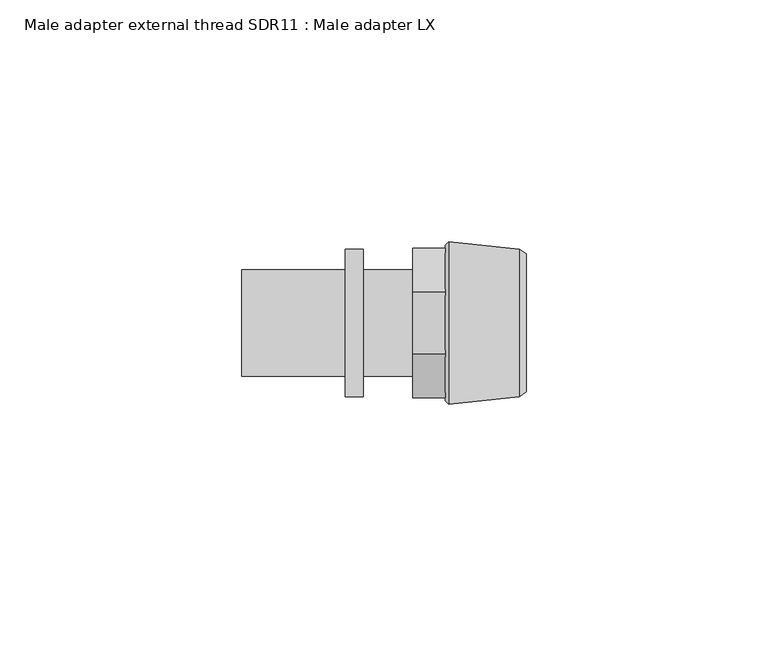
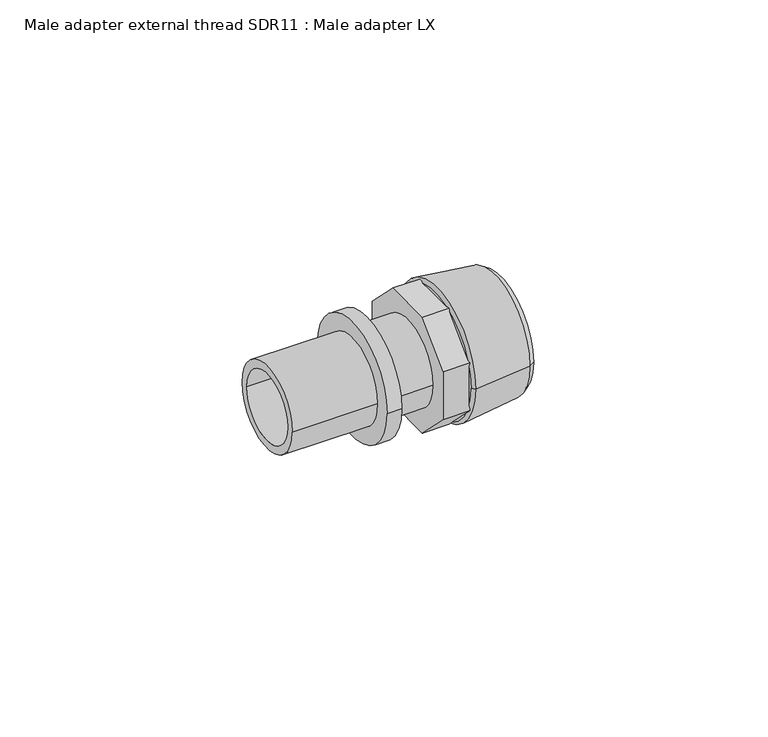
"""IFC4 building model written with IfcOpenShell, lengths in millimetres: pipe fitting geometry, Male adapter external thread SDR11 : Male adapter LX."""

from ifc_helpers import new_model, si_unit, frame, origin, place, context, project, spatial, polyline, circle_curve, outline, extrude, source, transform, mapped, element, save
from ifc_brep_helpers import plane_surface, cylinder_surface, revolved_surface, advanced_brep


def male_adapter_external_thread_sdr11_male_adapter_lx_96740124(model_context):
    return source(origin(), model_context, "Body", "SolidModel", [
        advanced_brep(
        [(-14.0, 11.0, 0.0), (-14.0, -11.0, 0.0), (-35.5, -11.0, 0.0), (-35.5, 11.0, 0.0), (-10.3, 15.25, 0.0), (-10.3, -15.25, 0.0), (-14.0, -15.25, 0.0), (-14.0, 15.25, 0.0), (0.0, 11.0, 0.0), (0.0, -11.0, 0.0), (-10.3, -11.0, 0.0), (-10.3, 11.0, 0.0), (-35.5, 8.9, 0.0), (-35.5, -8.9, 0.0), (0.0, -8.9, 0.0), (0.0, 8.9, 0.0)],
        [
            (0, 1, circle_curve(frame((-14.0, 0.0, 0.0), z_axis=(-1.0, 0.0, 0.0), x_axis=(0.0, -1.0, 0.0)), 11.0)),
            (1, 2),
            (2, 3, circle_curve(frame((-35.5, 0.0, 0.0), z_axis=(1.0, 0.0, 0.0), x_axis=(0.0, -1.0, 0.0)), 11.0)),
            (3, 0),
            (4, 5, circle_curve(frame((-10.3, 0.0, 0.0), z_axis=(-1.0, 0.0, 0.0), x_axis=(0.0, -1.0, 0.0)), 15.25)),
            (5, 6),
            (6, 7, circle_curve(frame((-14.0, 0.0, 0.0), z_axis=(1.0, 0.0, 0.0), x_axis=(0.0, -1.0, 0.0)), 15.25)),
            (7, 4),
            (8, 9, circle_curve(frame((0.0, 0.0, 0.0), z_axis=(-1.0, 0.0, 0.0), x_axis=(0.0, -1.0, 0.0)), 11.0)),
            (9, 10),
            (10, 11, circle_curve(frame((-10.3, 0.0, 0.0), z_axis=(1.0, 0.0, 0.0), x_axis=(0.0, -1.0, 0.0)), 11.0)),
            (11, 8),
            (12, 13, circle_curve(frame((-35.5, 0.0, 0.0), z_axis=(-1.0, 0.0, 0.0), x_axis=(0.0, -1.0, 0.0)), 8.9)),
            (13, 14),
            (14, 15, circle_curve(frame((0.0, 0.0, 0.0), z_axis=(1.0, 0.0, 0.0), x_axis=(0.0, -1.0, 0.0)), 8.9)),
            (15, 12),
            (2, 3, circle_curve(frame((-35.5, 0.0, 0.0), z_axis=(-1.0, 0.0, 0.0), x_axis=(0.0, 1.0, 0.0)), 11.0)),
            (12, 13, circle_curve(frame((-35.5, 0.0, 0.0), z_axis=(1.0, 0.0, 0.0), x_axis=(0.0, 1.0, 0.0)), 8.9)),
            (1, 0, circle_curve(frame((-14.0, 0.0, 0.0), z_axis=(-1.0, 0.0, 0.0), x_axis=(0.0, 1.0, 0.0)), 11.0)),
            (6, 7, circle_curve(frame((-14.0, 0.0, 0.0), z_axis=(-1.0, 0.0, 0.0), x_axis=(0.0, 1.0, 0.0)), 15.25)),
            (5, 4, circle_curve(frame((-10.3, 0.0, 0.0), z_axis=(-1.0, 0.0, 0.0), x_axis=(0.0, 1.0, 0.0)), 15.25)),
            (10, 11, circle_curve(frame((-10.3, 0.0, 0.0), z_axis=(-1.0, 0.0, 0.0), x_axis=(0.0, 1.0, 0.0)), 11.0)),
            (9, 8, circle_curve(frame((0.0, 0.0, 0.0), z_axis=(-1.0, 0.0, 0.0), x_axis=(0.0, 1.0, 0.0)), 11.0)),
            (14, 15, circle_curve(frame((0.0, 0.0, 0.0), z_axis=(-1.0, 0.0, 0.0), x_axis=(0.0, 1.0, 0.0)), 8.9)),
        ],
        [
            cylinder_surface(frame((0.0, 0.0, 0.0), z_axis=(1.0, 0.0, 0.0), x_axis=(0.0, -1.0, 0.0)), 11.0),
            cylinder_surface(frame((0.0, 0.0, 0.0), z_axis=(1.0, 0.0, 0.0), x_axis=(0.0, -1.0, 0.0)), 15.25),
            revolved_surface(polyline([(0.0, -8.9, 0.0), (-35.5, -8.9, 0.0)]), (0.0, 0.0, 0.0), (1.0, 0.0, 0.0)),
            plane_surface(frame((-35.5, 0.0, 0.0), z_axis=(-1.0, 0.0, 0.0), x_axis=(0.0, 1.0, 0.0))),
            cylinder_surface(frame((0.0, 0.0, 0.0), z_axis=(1.0, 0.0, 0.0), x_axis=(0.0, 1.0, 0.0)), 11.0),
            plane_surface(frame((-14.0, 0.0, 0.0), z_axis=(-1.0, 0.0, 0.0), x_axis=(0.0, 1.0, 0.0))),
            cylinder_surface(frame((0.0, 0.0, 0.0), z_axis=(1.0, 0.0, 0.0), x_axis=(0.0, 1.0, 0.0)), 15.25),
            plane_surface(frame((-10.3, 0.0, 0.0), z_axis=(1.0, 0.0, 0.0), x_axis=(0.0, 1.0, 0.0))),
            plane_surface(frame((0.0, 0.0, 0.0), z_axis=(1.0, 0.0, 0.0), x_axis=(0.0, 1.0, 0.0))),
            revolved_surface(polyline([(0.0, 8.9, 0.0), (-35.5, 8.9, 0.0)]), (0.0, 0.0, 0.0), (1.0, 0.0, 0.0)),
        ],
        [
            (0, [[1, 2, 3, 4]]),
            (1, [[5, 6, 7, 8]]),
            (0, [[9, 10, 11, 12]]),
            (2, [[13, 14, 15, 16]]),
            (3, [[17, -3], [18, -13]]),
            (4, [[19, -4, -17, -2]]),
            (5, [[20, -7], [-19, -1]]),
            (6, [[21, -8, -20, -6]]),
            (7, [[-21, -5], [22, -11]]),
            (4, [[23, -12, -22, -10]]),
            (8, [[-23, -9], [24, -15]]),
            (9, [[-18, -16, -24, -14]]),
        ],
    ),
        advanced_brep(
        [(7.8032803, 12.0, 0.0), (7.8032803, -12.0, 0.0), (23.5, -12.0, 0.0), (23.5, 12.0, 0.0), (6.7, 10.8967197, 0.0), (6.7, -10.8967197, 0.0), (7.4406902, 16.85, 0.0), (7.4406902, -16.85, 0.0), (6.7, -16.1, 0.0), (6.7, 16.1, 0.0), (22.0000007, 15.275, 0.0), (22.0000007, -15.275, 0.0), (23.5, 14.3, 0.0), (23.5, -14.3, 0.0)],
        [
            (0, 1, circle_curve(frame((7.8032803, 0.0, 0.0), z_axis=(-1.0, 0.0, 0.0), x_axis=(0.0, -1.0, 0.0)), 12.0)),
            (1, 2),
            (2, 3, circle_curve(frame((23.5, 0.0, 0.0), z_axis=(1.0, 0.0, 0.0), x_axis=(0.0, -1.0, 0.0)), 12.0)),
            (3, 0),
            (4, 5, circle_curve(frame((6.7, 0.0, 0.0), z_axis=(-1.0, 0.0, 0.0), x_axis=(0.0, -1.0, 0.0)), 10.8967197)),
            (5, 1),
            (0, 4),
            (6, 7, circle_curve(frame((7.4406902, 0.0, 0.0), z_axis=(-1.0, 0.0, 0.0), x_axis=(0.0, -1.0, 0.0)), 16.85)),
            (7, 8),
            (8, 9, circle_curve(frame((6.7, 0.0, 0.0), z_axis=(1.0, 0.0, 0.0), x_axis=(0.0, -1.0, 0.0)), 16.1)),
            (9, 6),
            (10, 11, circle_curve(frame((22.0000007, 0.0, 0.0), z_axis=(-1.0, 0.0, 0.0), x_axis=(0.0, -1.0, 0.0)), 15.275)),
            (11, 7),
            (6, 10),
            (12, 13, circle_curve(frame((23.5, 0.0, 0.0), z_axis=(-1.0, 0.0, 0.0), x_axis=(0.0, -1.0, 0.0)), 14.3)),
            (13, 11),
            (10, 12),
            (1, 0, circle_curve(frame((7.8032803, 0.0, 0.0), z_axis=(-1.0, 0.0, 0.0), x_axis=(0.0, 1.0, 0.0)), 12.0)),
            (3, 2, circle_curve(frame((23.5, 0.0, 0.0), z_axis=(1.0, 0.0, 0.0), x_axis=(0.0, 1.0, 0.0)), 12.0)),
            (5, 4, circle_curve(frame((6.7, 0.0, 0.0), z_axis=(-1.0, 0.0, 0.0), x_axis=(0.0, 1.0, 0.0)), 10.8967197)),
            (8, 9, circle_curve(frame((6.7, 0.0, 0.0), z_axis=(-1.0, 0.0, 0.0), x_axis=(0.0, 1.0, 0.0)), 16.1)),
            (7, 6, circle_curve(frame((7.4406902, 0.0, 0.0), z_axis=(-1.0, 0.0, 0.0), x_axis=(0.0, 1.0, 0.0)), 16.85)),
            (11, 10, circle_curve(frame((22.0000007, 0.0, 0.0), z_axis=(-1.0, 0.0, 0.0), x_axis=(0.0, 1.0, 0.0)), 15.275)),
            (13, 12, circle_curve(frame((23.5, 0.0, 0.0), z_axis=(-1.0, 0.0, 0.0), x_axis=(0.0, 1.0, 0.0)), 14.3)),
        ],
        [
            revolved_surface(polyline([(23.5, -12.0, 0.0), (7.8032803, -12.0, 0.0)]), (0.0, 0.0, 0.0), (1.0, 0.0, 0.0)),
            revolved_surface(polyline([(7.8032803, -12.0, 0.0), (6.7, -10.8967197, 0.0)]), (0.0, 0.0, 0.0), (1.0, 0.0, 0.0)),
            revolved_surface(polyline([(6.7, -16.1, 0.0), (7.4406902, -16.85, 0.0)]), (0.0, 0.0, 0.0), (1.0, 0.0, 0.0)),
            revolved_surface(polyline([(7.4406902, -16.85, 0.0), (22.0000007, -15.275, 0.0)]), (0.0, 0.0, 0.0), (1.0, 0.0, 0.0)),
            revolved_surface(polyline([(22.0000007, -15.275, 0.0), (23.5, -14.3, 0.0)]), (0.0, 0.0, 0.0), (1.0, 0.0, 0.0)),
            revolved_surface(polyline([(23.5, 12.0, 0.0), (7.8032803, 12.0, 0.0)]), (0.0, 0.0, 0.0), (1.0, 0.0, 0.0)),
            revolved_surface(polyline([(7.8032803, 12.0, 0.0), (6.7, 10.8967197, 0.0)]), (0.0, 0.0, 0.0), (1.0, 0.0, 0.0)),
            plane_surface(frame((6.7, 0.0, 0.0), z_axis=(-1.0, 0.0, 0.0), x_axis=(0.0, 1.0, 0.0))),
            revolved_surface(polyline([(6.7, 16.1, 0.0), (7.4406902, 16.85, 0.0)]), (0.0, 0.0, 0.0), (1.0, 0.0, 0.0)),
            revolved_surface(polyline([(7.4406902, 16.85, 0.0), (22.0000007, 15.275, 0.0)]), (0.0, 0.0, 0.0), (1.0, 0.0, 0.0)),
            revolved_surface(polyline([(22.0000007, 15.275, 0.0), (23.5, 14.3, 0.0)]), (0.0, 0.0, 0.0), (1.0, 0.0, 0.0)),
            plane_surface(frame((23.5, 0.0, 0.0), z_axis=(1.0, 0.0, 0.0), x_axis=(0.0, 1.0, 0.0))),
        ],
        [
            (0, [[1, 2, 3, 4]]),
            (1, [[5, 6, -1, 7]]),
            (2, [[8, 9, 10, 11]]),
            (3, [[12, 13, -8, 14]]),
            (4, [[15, 16, -12, 17]]),
            (5, [[18, -4, 19, -2]]),
            (6, [[20, -7, -18, -6]]),
            (7, [[21, -10], [-20, -5]]),
            (8, [[22, -11, -21, -9]]),
            (9, [[23, -14, -22, -13]]),
            (10, [[24, -17, -23, -16]]),
            (11, [[-24, -15], [-19, -3]]),
        ],
    ),
        extrude(outline(polyline([(-15.5, 6.4203102), (-6.4203102, 15.5), (6.4203102, 15.5), (15.5, 6.4203102), (15.5, -6.4203102), (6.4203102, -15.5), (-6.4203102, -15.5), (-15.5, -6.4203102), (-15.5, 6.4203102)])), frame((0.0, 0.0, 0.0), z_axis=(1.0, 0.0, 0.0), x_axis=(0.0, 1.0, 0.0)), (0.0, 0.0, 1.0), 6.7),
    ])


if __name__ == "__main__":
    model = new_model("IFC4")
    model_context = context("Model", 3, world=origin())
    ifc_project = project(units=[si_unit("LENGTHUNIT", "METRE", prefix="MILLI")], contexts=[model_context])
    site = spatial("IfcSite", under=ifc_project)
    building = spatial("IfcBuilding", under=site)
    placement = place(None, origin())
    male_adapter_external_thread_sdr11_male_adapter_lx_shape = male_adapter_external_thread_sdr11_male_adapter_lx_96740124(model_context)
    element("IfcPipeFitting", 1, ObjectType="Male adapter external thread SDR11 : Male adapter LX", at=placement, inside=building, context=model_context, shape_type="MappedRepresentation", body=[
        mapped(male_adapter_external_thread_sdr11_male_adapter_lx_shape, transform((0.0, 0.0, 0.0), x_axis=(1.0, 0.0, 0.0), y_axis=(0.0, 1.0, 0.0), z_axis=(0.0, 0.0, 1.0))),
    ])
    save(model, "model.ifc")
